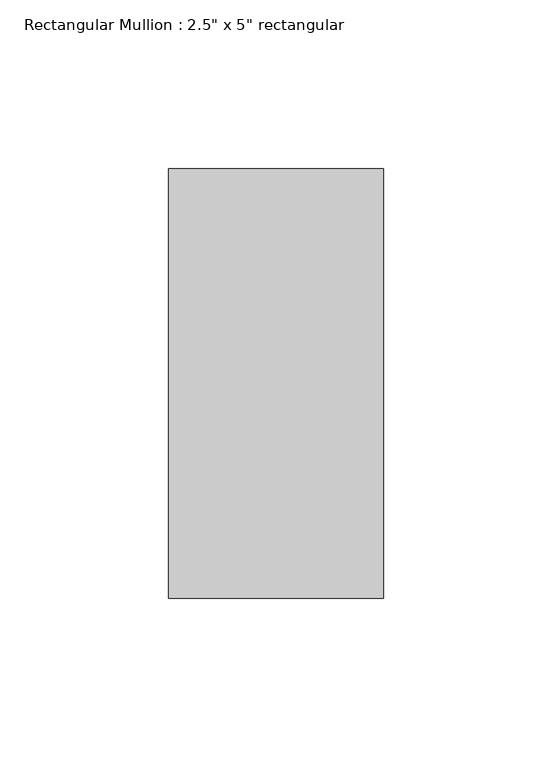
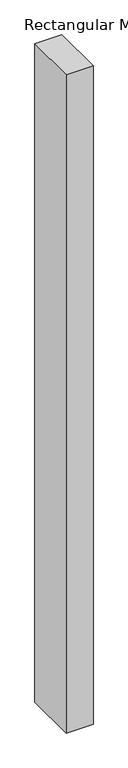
"""IFC4 building model written with IfcOpenShell, lengths in millimetres: member geometry."""

from ifc_helpers import new_model, si_unit, frame, origin, place, context, project, spatial, polyline, outline, extrude, source, transform, mapped, element, save


def member_1aadb8e3(model_context):
    return source(origin(), model_context, "Body", "SweptSolid", [
        extrude(outline(polyline([(0.0, 63.5), (0.0, -63.5), (-63.5, -63.5), (-63.5, 63.5), (0.0, 63.5)])), frame((0.0, 0.0, -1638.3), z_axis=(0.0, 0.0, 1.0), x_axis=(1.0, 0.0, 0.0)), (0.0, 0.0, 1.0), 1638.3),
    ])


if __name__ == "__main__":
    model = new_model("IFC4")
    model_context = context("Model", 3, world=origin())
    ifc_project = project(units=[si_unit("LENGTHUNIT", "METRE", prefix="MILLI")], contexts=[model_context])
    site = spatial("IfcSite", under=ifc_project)
    building = spatial("IfcBuilding", under=site)
    placement = place(None, origin())
    member_shape = member_1aadb8e3(model_context)
    element("IfcMember", 1, ObjectType="Rectangular Mullion : 2.5\" x 5\" rectangular", at=placement, inside=building, context=model_context, shape_type="MappedRepresentation", body=[
        mapped(member_shape, transform((0.0, 0.0, 0.0), x_axis=(1.0, 0.0, 0.0), y_axis=(0.0, 1.0, 0.0), z_axis=(0.0, 0.0, 1.0))),
    ])
    save(model, "model.ifc")
